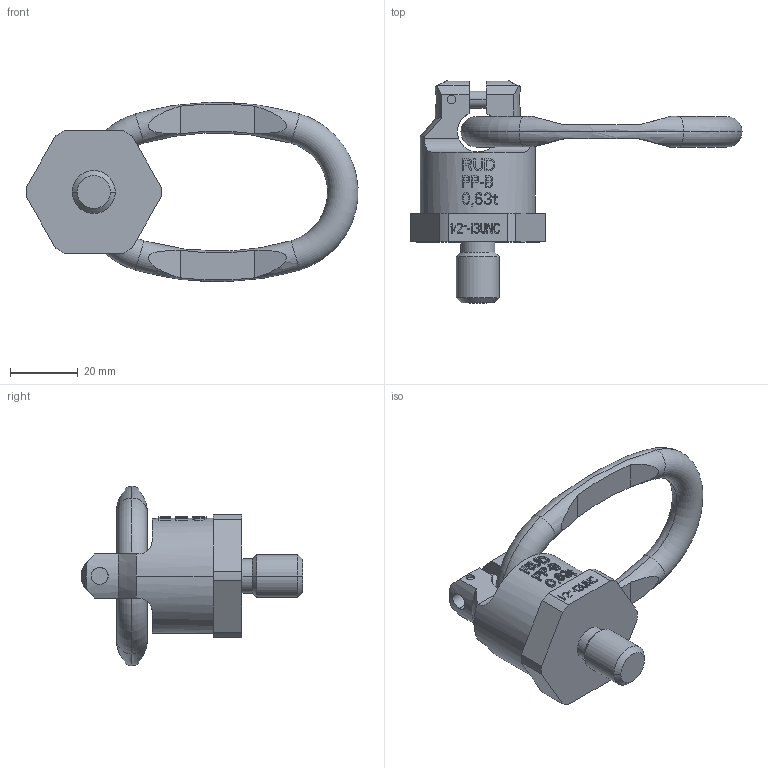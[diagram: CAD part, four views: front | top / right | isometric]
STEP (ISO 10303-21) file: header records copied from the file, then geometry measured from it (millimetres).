
FILE_DESCRIPTION((''),'2;1');
FILE_NAME('001-M31440-P4-90-Z_ASM','2008-10-29T',('Azubitbm'),('RAND'),'PRO/ENGINEER BY PARAMETRIC TECHNOLOGY CORPORATION, 2005030','PRO/ENGINEER BY PARAMETRIC TECHNOLOGY CORPORATION, 2005030','');
FILE_SCHEMA(('CONFIG_CONTROL_DESIGN'));
Length unit declared in the file: millimetre
Products named in the file (4): 001-M31440-002; 001-M31440-007; 001-M31290-006; 001-M31440-P4-90-Z_ASM
Assembly tree (3 placements, depth 2):
  001-M31440-P4-90-Z_ASM
    001-M31440-002
    001-M31440-007
    001-M31290-006
Bounding box: 97.96 x 65.5 x 52.92 mm (x, y, z)
Volume: 43492 mm3; surface area: 14938.7 mm2
Topology: 3 solids, 3 shells, 660 faces, 1832 edges, 1216 vertices
Faces by surface type: plane 593, cylinder 51, cone 8, torus 8
Entity records: 21396 total; most frequent: CARTESIAN_POINT 5247, ORIENTED_EDGE 3664, DIRECTION 2812, EDGE_CURVE 1832, VERTEX_POINT 1216, VECTOR 1118, LINE 1118, AXIS2_PLACEMENT_3D 847
